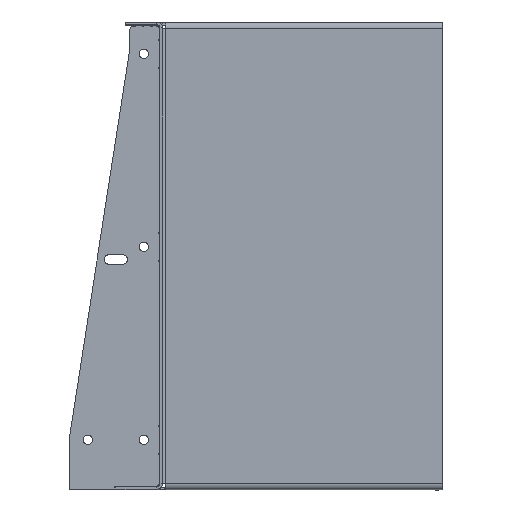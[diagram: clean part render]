
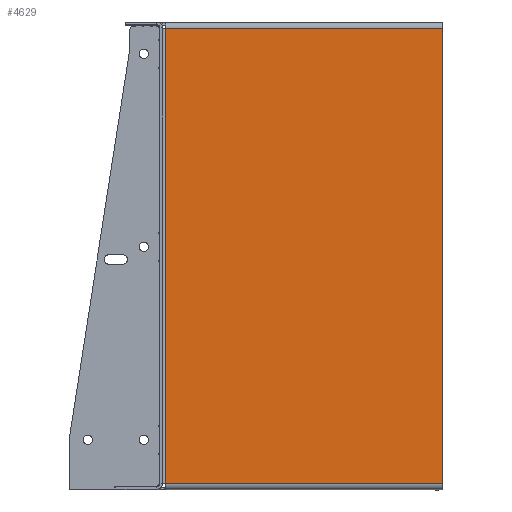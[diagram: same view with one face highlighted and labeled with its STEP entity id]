
A CAD part, top view. The second image highlights one B-rep face of the part: STEP entity #4629.
In plain terms, the highlighted planar face has unit normal (0, 0, 1).
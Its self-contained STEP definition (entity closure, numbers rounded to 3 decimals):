
#440 = PLANE ( 'NONE',  #3252 ) ;
#494 = EDGE_CURVE ( 'NONE', #3673, #4556, #2048, .T. ) ;
#637 = VERTEX_POINT ( 'NONE', #1791 ) ;
#725 = CARTESIAN_POINT ( 'NONE',  ( 0., 928.507, -300. ) ) ;
#816 = LINE ( 'NONE', #1578, #1930 ) ;
#904 = CARTESIAN_POINT ( 'NONE',  ( 300., 928.507, -300. ) ) ;
#1063 = CARTESIAN_POINT ( 'NONE',  ( 3.3, 493.7, -300. ) ) ;
#1098 = CARTESIAN_POINT ( 'NONE',  ( 3.3, 6.3, -300. ) ) ;
#1176 = FACE_OUTER_BOUND ( 'NONE', #4383, .T. ) ;
#1202 = DIRECTION ( 'NONE',  ( -1., 0., 0. ) ) ;
#1273 = ORIENTED_EDGE ( 'NONE', *, *, #2012, .T. ) ;
#1487 = CARTESIAN_POINT ( 'NONE',  ( 300., 493.7, -300. ) ) ;
#1540 = LINE ( 'NONE', #1487, #3873 ) ;
#1578 = CARTESIAN_POINT ( 'NONE',  ( 3.3, 6.3, -300. ) ) ;
#1791 = CARTESIAN_POINT ( 'NONE',  ( 300., 6.3, -300. ) ) ;
#1908 = DIRECTION ( 'NONE',  ( 1., 0., 0. ) ) ;
#1930 = VECTOR ( 'NONE', #1908, 1000. ) ;
#2012 = EDGE_CURVE ( 'NONE', #4556, #637, #816, .T. ) ;
#2013 = DIRECTION ( 'NONE',  ( 0., -1., 0. ) ) ;
#2030 = CARTESIAN_POINT ( 'NONE',  ( 3.3, 928.507, -300. ) ) ;
#2048 = LINE ( 'NONE', #2030, #3609 ) ;
#2501 = VERTEX_POINT ( 'NONE', #3015 ) ;
#2615 = EDGE_CURVE ( 'NONE', #2501, #637, #4585, .T. ) ;
#2623 = DIRECTION ( 'NONE',  ( 0., 0., -1. ) ) ;
#2711 = ORIENTED_EDGE ( 'NONE', *, *, #494, .T. ) ;
#2730 = ORIENTED_EDGE ( 'NONE', *, *, #4170, .T. ) ;
#2998 = ORIENTED_EDGE ( 'NONE', *, *, #2615, .F. ) ;
#3015 = CARTESIAN_POINT ( 'NONE',  ( 300., 493.7, -300. ) ) ;
#3252 = AXIS2_PLACEMENT_3D ( 'NONE', #725, #2623, #3610 ) ;
#3271 = VECTOR ( 'NONE', #4152, 1000. ) ;
#3609 = VECTOR ( 'NONE', #2013, 1000. ) ;
#3610 = DIRECTION ( 'NONE',  ( -1., 0., 0. ) ) ;
#3673 = VERTEX_POINT ( 'NONE', #1063 ) ;
#3873 = VECTOR ( 'NONE', #1202, 1000. ) ;
#4152 = DIRECTION ( 'NONE',  ( 0., -1., 0. ) ) ;
#4170 = EDGE_CURVE ( 'NONE', #2501, #3673, #1540, .T. ) ;
#4383 = EDGE_LOOP ( 'NONE', ( #1273, #2998, #2730, #2711 ) ) ;
#4556 = VERTEX_POINT ( 'NONE', #1098 ) ;
#4585 = LINE ( 'NONE', #904, #3271 ) ;
#4629 = ADVANCED_FACE ( 'NONE', ( #1176 ), #440, .F. ) ;
